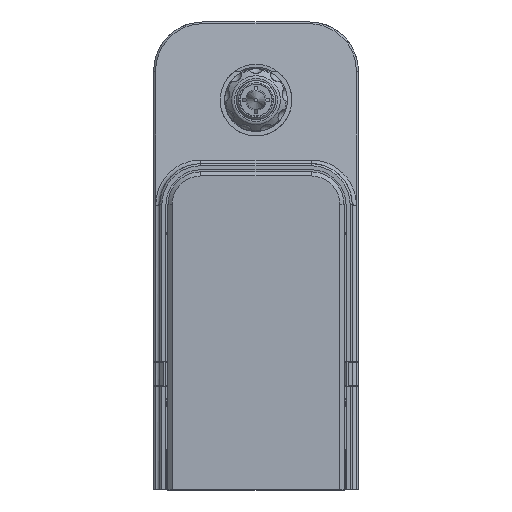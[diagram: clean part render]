
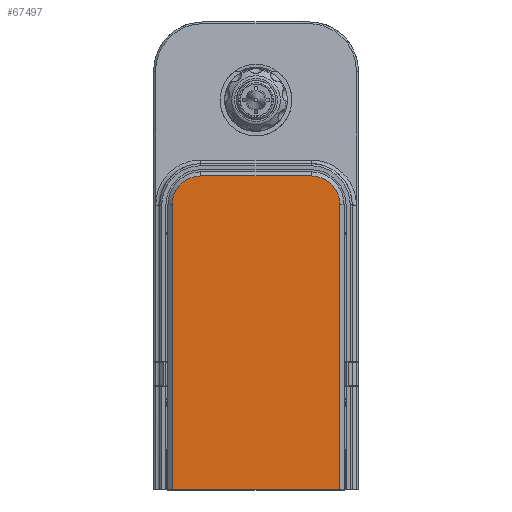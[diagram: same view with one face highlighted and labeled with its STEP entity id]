
A CAD part, front view. The second image highlights one B-rep face of the part: STEP entity #67497.
In plain terms, the highlighted planar face has unit normal (0, -1, 0).
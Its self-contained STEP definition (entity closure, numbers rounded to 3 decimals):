
#571 = EDGE_CURVE ( 'NONE', #20006, #37030, #68041, .T. ) ;
#2399 = LINE ( 'NONE', #13860, #43205 ) ;
#2807 = DIRECTION ( 'NONE',  ( -1., 0., 0. ) ) ;
#3901 = EDGE_CURVE ( 'NONE', #17406, #41942, #42560, .T. ) ;
#4753 = PLANE ( 'NONE',  #48342 ) ;
#5162 = DIRECTION ( 'NONE',  ( 0., -1., 0. ) ) ;
#5173 = LINE ( 'NONE', #17036, #38815 ) ;
#5388 = DIRECTION ( 'NONE',  ( 0., -1., 0. ) ) ;
#5803 = ORIENTED_EDGE ( 'NONE', *, *, #44149, .T. ) ;
#7037 = ORIENTED_EDGE ( 'NONE', *, *, #37738, .T. ) ;
#8642 = CARTESIAN_POINT ( 'NONE',  ( 20.5, -39.557, 69.7 ) ) ;
#11520 = DIRECTION ( 'NONE',  ( 0., 0., 1. ) ) ;
#12909 = CARTESIAN_POINT ( 'NONE',  ( 13.5, -39.557, 69.7 ) ) ;
#13860 = CARTESIAN_POINT ( 'NONE',  ( -13.5, -39.557, 76.7 ) ) ;
#16874 = ORIENTED_EDGE ( 'NONE', *, *, #571, .T. ) ;
#17036 = CARTESIAN_POINT ( 'NONE',  ( 20.5, -39.557, 69.7 ) ) ;
#17406 = VERTEX_POINT ( 'NONE', #79984 ) ;
#17819 = DIRECTION ( 'NONE',  ( 0., 0., 1. ) ) ;
#20006 = VERTEX_POINT ( 'NONE', #25254 ) ;
#21446 = EDGE_CURVE ( 'NONE', #17406, #45777, #5173, .T. ) ;
#21889 = CARTESIAN_POINT ( 'NONE',  ( -20.5, -39.557, 0. ) ) ;
#25179 = DIRECTION ( 'NONE',  ( 0., 0., 1. ) ) ;
#25254 = CARTESIAN_POINT ( 'NONE',  ( -13.5, -39.557, 76.7 ) ) ;
#28727 = EDGE_LOOP ( 'NONE', ( #76791, #31458, #7037, #16874, #5803, #48581 ) ) ;
#31458 = ORIENTED_EDGE ( 'NONE', *, *, #54734, .T. ) ;
#32081 = LINE ( 'NONE', #42755, #47947 ) ;
#34813 = CARTESIAN_POINT ( 'NONE',  ( -21.5, -39.557, 0. ) ) ;
#37030 = VERTEX_POINT ( 'NONE', #75774 ) ;
#37738 = EDGE_CURVE ( 'NONE', #45898, #20006, #2399, .T. ) ;
#38815 = VECTOR ( 'NONE', #41997, 1000. ) ;
#41942 = VERTEX_POINT ( 'NONE', #21889 ) ;
#41997 = DIRECTION ( 'NONE',  ( 0., 0., 1. ) ) ;
#42560 = LINE ( 'NONE', #34813, #67662 ) ;
#42755 = CARTESIAN_POINT ( 'NONE',  ( -20.5, -39.557, 69.7 ) ) ;
#43165 = AXIS2_PLACEMENT_3D ( 'NONE', #67627, #5388, #11520 ) ;
#43205 = VECTOR ( 'NONE', #2807, 1000. ) ;
#44149 = EDGE_CURVE ( 'NONE', #37030, #41942, #32081, .T. ) ;
#45777 = VERTEX_POINT ( 'NONE', #8642 ) ;
#45898 = VERTEX_POINT ( 'NONE', #61429 ) ;
#47947 = VECTOR ( 'NONE', #56299, 1000. ) ;
#48342 = AXIS2_PLACEMENT_3D ( 'NONE', #67398, #73916, #17819 ) ;
#48581 = ORIENTED_EDGE ( 'NONE', *, *, #3901, .F. ) ;
#54734 = EDGE_CURVE ( 'NONE', #45777, #45898, #56353, .T. ) ;
#56299 = DIRECTION ( 'NONE',  ( 0., 0., -1. ) ) ;
#56353 = CIRCLE ( 'NONE', #79834, 7. ) ;
#60845 = FACE_OUTER_BOUND ( 'NONE', #28727, .T. ) ;
#61429 = CARTESIAN_POINT ( 'NONE',  ( 13.5, -39.557, 76.7 ) ) ;
#67398 = CARTESIAN_POINT ( 'NONE',  ( -13.5, -39.557, 69.7 ) ) ;
#67497 = ADVANCED_FACE ( 'NONE', ( #60845 ), #4753, .F. ) ;
#67627 = CARTESIAN_POINT ( 'NONE',  ( -13.5, -39.557, 69.7 ) ) ;
#67662 = VECTOR ( 'NONE', #79030, 1000. ) ;
#68041 = CIRCLE ( 'NONE', #43165, 7. ) ;
#73916 = DIRECTION ( 'NONE',  ( 0., 1., 0. ) ) ;
#75774 = CARTESIAN_POINT ( 'NONE',  ( -20.5, -39.557, 69.7 ) ) ;
#76791 = ORIENTED_EDGE ( 'NONE', *, *, #21446, .T. ) ;
#79030 = DIRECTION ( 'NONE',  ( -1., 0., 0. ) ) ;
#79834 = AXIS2_PLACEMENT_3D ( 'NONE', #12909, #5162, #25179 ) ;
#79984 = CARTESIAN_POINT ( 'NONE',  ( 20.5, -39.557, 0. ) ) ;
